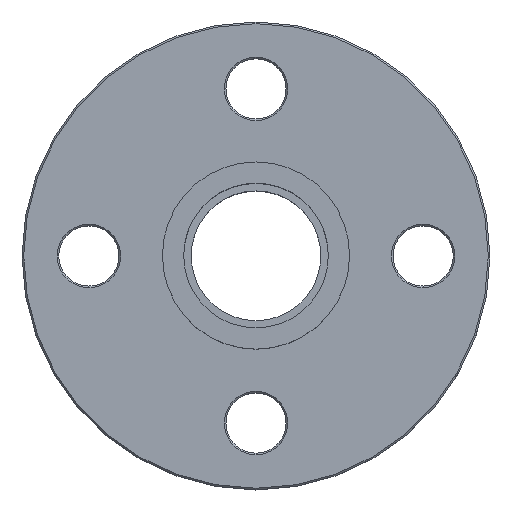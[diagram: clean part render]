
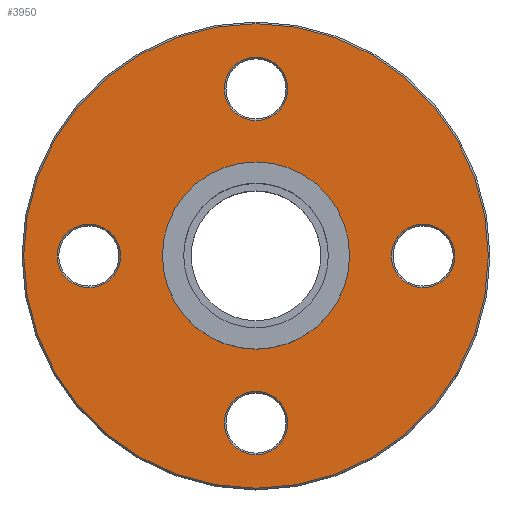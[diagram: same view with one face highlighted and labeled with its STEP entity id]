
A CAD part, top view. The second image highlights one B-rep face of the part: STEP entity #3950.
In plain terms, the highlighted planar face has unit normal (0, 0, 1) as drawn and (0, 1, 0) by its records, which use the part's own axes.
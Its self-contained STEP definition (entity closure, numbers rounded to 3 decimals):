
#540=CARTESIAN_POINT('',(-70.5,87.,0.));
#550=VERTEX_POINT('',#540);
#600=CARTESIAN_POINT('',(-1.,87.,0.));
#610=DIRECTION('',(0.,1.,0.));
#620=DIRECTION('',(1.,0.,0.));
#630=AXIS2_PLACEMENT_3D('',#600,#610,#620);
#640=CIRCLE('',#630,69.5);
#650=CARTESIAN_POINT('',(68.5,87.,0.));
#660=VERTEX_POINT('',#650);
#670=EDGE_CURVE('',#550,#660,#640,.T.);
#3100=CARTESIAN_POINT('',(43.275,87.,0.));
#3110=DIRECTION('',(-0.,-1.,-0.));
#3120=DIRECTION('',(-1.,0.,0.));
#3130=AXIS2_PLACEMENT_3D('',#3100,#3110,#3120);
#3140=PLANE('',#3130);
#3150=CARTESIAN_POINT('',(-1.,87.,0.));
#3160=DIRECTION('',(0.,1.,0.));
#3170=DIRECTION('',(0.,0.,1.));
#3180=AXIS2_PLACEMENT_3D('',#3150,#3160,#3170);
#3190=CIRCLE('',#3180,22.5);
#3200=CARTESIAN_POINT('',(-1.,87.,22.5));
#3210=VERTEX_POINT('',#3200);
#3220=CARTESIAN_POINT('',(-1.,87.,-22.5));
#3230=VERTEX_POINT('',#3220);
#3240=EDGE_CURVE('',#3210,#3230,#3190,.T.);
#3250=ORIENTED_EDGE('',*,*,#3240,.F.);
#3260=EDGE_CURVE('',#3230,#3210,#3190,.T.);
#3270=ORIENTED_EDGE('',*,*,#3260,.F.);
#3280=EDGE_LOOP('',(#3270,#3250));
#3290=FACE_BOUND('',#3280,.T.);
#3300=CARTESIAN_POINT('',(-1.,87.,-50.));
#3310=DIRECTION('',(0.,1.,0.));
#3320=DIRECTION('',(1.,0.,0.));
#3330=AXIS2_PLACEMENT_3D('',#3300,#3310,#3320);
#3340=CIRCLE('',#3330,9.5);
#3350=CARTESIAN_POINT('',(8.5,87.,-50.));
#3360=VERTEX_POINT('',#3350);
#3370=CARTESIAN_POINT('',(-10.5,87.,-50.));
#3380=VERTEX_POINT('',#3370);
#3390=EDGE_CURVE('',#3360,#3380,#3340,.T.);
#3400=ORIENTED_EDGE('',*,*,#3390,.F.);
#3410=EDGE_CURVE('',#3380,#3360,#3340,.T.);
#3420=ORIENTED_EDGE('',*,*,#3410,.F.);
#3430=EDGE_LOOP('',(#3420,#3400));
#3440=FACE_BOUND('',#3430,.T.);
#3450=CARTESIAN_POINT('',(-51.,87.,0.));
#3460=DIRECTION('',(0.,1.,0.));
#3470=DIRECTION('',(1.,0.,0.));
#3480=AXIS2_PLACEMENT_3D('',#3450,#3460,#3470);
#3490=CIRCLE('',#3480,9.5);
#3500=CARTESIAN_POINT('',(-41.5,87.,0.));
#3510=VERTEX_POINT('',#3500);
#3520=CARTESIAN_POINT('',(-60.5,87.,0.));
#3530=VERTEX_POINT('',#3520);
#3540=EDGE_CURVE('',#3510,#3530,#3490,.T.);
#3550=ORIENTED_EDGE('',*,*,#3540,.F.);
#3560=EDGE_CURVE('',#3530,#3510,#3490,.T.);
#3570=ORIENTED_EDGE('',*,*,#3560,.F.);
#3580=EDGE_LOOP('',(#3570,#3550));
#3590=FACE_BOUND('',#3580,.T.);
#3600=CARTESIAN_POINT('',(49.,87.,0.));
#3610=DIRECTION('',(0.,1.,0.));
#3620=DIRECTION('',(1.,0.,0.));
#3630=AXIS2_PLACEMENT_3D('',#3600,#3610,#3620);
#3640=CIRCLE('',#3630,9.5);
#3650=CARTESIAN_POINT('',(58.5,87.,0.));
#3660=VERTEX_POINT('',#3650);
#3670=CARTESIAN_POINT('',(39.5,87.,0.));
#3680=VERTEX_POINT('',#3670);
#3690=EDGE_CURVE('',#3660,#3680,#3640,.T.);
#3700=ORIENTED_EDGE('',*,*,#3690,.F.);
#3710=EDGE_CURVE('',#3680,#3660,#3640,.T.);
#3720=ORIENTED_EDGE('',*,*,#3710,.F.);
#3730=EDGE_LOOP('',(#3720,#3700));
#3740=FACE_BOUND('',#3730,.T.);
#3750=CARTESIAN_POINT('',(-1.,87.,50.));
#3760=DIRECTION('',(0.,1.,0.));
#3770=DIRECTION('',(1.,0.,0.));
#3780=AXIS2_PLACEMENT_3D('',#3750,#3760,#3770);
#3790=CIRCLE('',#3780,9.5);
#3800=CARTESIAN_POINT('',(8.5,87.,50.));
#3810=VERTEX_POINT('',#3800);
#3820=CARTESIAN_POINT('',(-10.5,87.,50.));
#3830=VERTEX_POINT('',#3820);
#3840=EDGE_CURVE('',#3810,#3830,#3790,.T.);
#3850=ORIENTED_EDGE('',*,*,#3840,.F.);
#3860=EDGE_CURVE('',#3830,#3810,#3790,.T.);
#3870=ORIENTED_EDGE('',*,*,#3860,.F.);
#3880=EDGE_LOOP('',(#3870,#3850));
#3890=FACE_BOUND('',#3880,.T.);
#3900=EDGE_CURVE('',#660,#550,#640,.T.);
#3910=ORIENTED_EDGE('',*,*,#3900,.T.);
#3920=ORIENTED_EDGE('',*,*,#670,.T.);
#3930=EDGE_LOOP('',(#3920,#3910));
#3940=FACE_OUTER_BOUND('',#3930,.T.);
#3950=ADVANCED_FACE('',(#3290,#3440,#3590,#3740,#3890,#3940),#3140,.F.);
